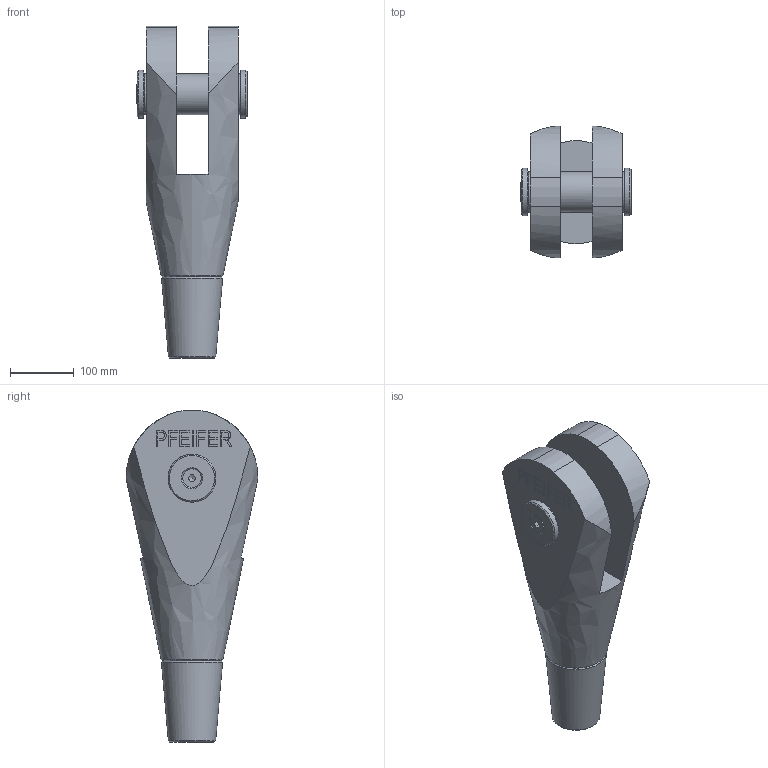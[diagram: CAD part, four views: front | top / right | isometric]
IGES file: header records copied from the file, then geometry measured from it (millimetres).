
Global section: file name: 520-064-GAK; native system: Autodesk Inventor 2016; preprocessor: unknown; author: Administrator; date: 20200625.075804; units: centimetre
Bounding box: 172.3 x 206.41 x 519.68 mm (x, y, z)
Volume: 6180037.9 mm3; surface area: 388439.7 mm2
Topology: 2 solids, 4 shells, 186 faces, 492 edges, 329 vertices
Faces by surface type: bspline 186
